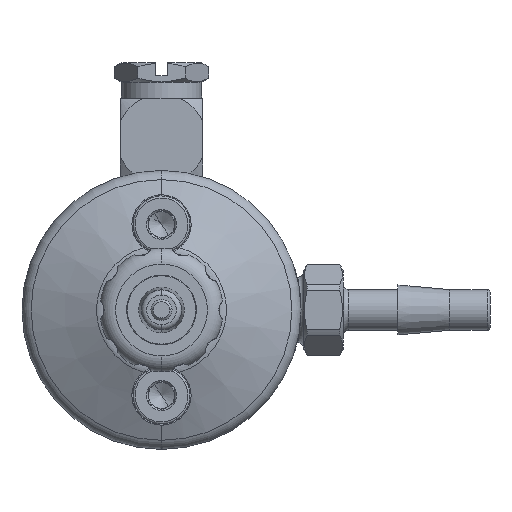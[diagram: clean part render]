
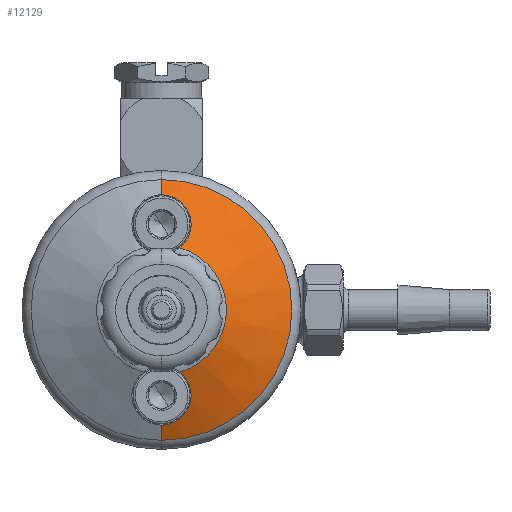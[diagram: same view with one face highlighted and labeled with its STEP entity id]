
A CAD part, front view. The second image highlights one B-rep face of the part: STEP entity #12129.
In plain terms, the highlighted conical face has half-angle 65 degrees and reference radius 5.956 mm.
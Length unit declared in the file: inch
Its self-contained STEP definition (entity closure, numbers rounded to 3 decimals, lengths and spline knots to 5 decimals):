
#1408 = CONICAL_SURFACE ( 'NONE', #7321, 0.2345, 1.134 ) ;
#1736 = CARTESIAN_POINT ( 'NONE',  ( 0.10389, 0.6522, -0.36856 ) ) ;
#1899 = CARTESIAN_POINT ( 'NONE',  ( 0.09597, 0.65821, 0.38399 ) ) ;
#2595 = CARTESIAN_POINT ( 'NONE',  ( 0.08602, 0.66369, 0.39845 ) ) ;
#3035 = CARTESIAN_POINT ( 'NONE',  ( 0., 0.58862, 0. ) ) ;
#3083 = VERTEX_POINT ( 'NONE', #28700 ) ;
#3227 = CARTESIAN_POINT ( 'NONE',  ( 0., 0.70464, 0. ) ) ;
#3614 = CARTESIAN_POINT ( 'NONE',  ( 0.11258, 0.63864, -0.33546 ) ) ;
#4517 = CARTESIAN_POINT ( 'NONE',  ( 0.06339, 0.67084, -0.41813 ) ) ;
#4620 = EDGE_LOOP ( 'NONE', ( #18889, #16796, #43693, #12445, #31719, #33077 ) ) ;
#4926 = LINE ( 'NONE', #18987, #35502 ) ;
#5201 = CARTESIAN_POINT ( 'NONE',  ( 0., 0.67766, -0.4375 ) ) ;
#5380 = CARTESIAN_POINT ( 'NONE',  ( 0.06339, 0.67084, 0.41814 ) ) ;
#5435 = CARTESIAN_POINT ( 'NONE',  ( 0.05834, 0.672, -0.42138 ) ) ;
#5651 = DIRECTION ( 'NONE',  ( 0., 0.423, -0.906 ) ) ;
#6001 = DIRECTION ( 'NONE',  ( 0., 0., -1. ) ) ;
#6295 = CARTESIAN_POINT ( 'NONE',  ( 0.02438, 0.67679, 0.435 ) ) ;
#6860 = CARTESIAN_POINT ( 'NONE',  ( 0.07819, 0.59309, -0.24392 ) ) ;
#7081 = CARTESIAN_POINT ( 'NONE',  ( 0.11066, 0.62358, -0.30189 ) ) ;
#7321 = AXIS2_PLACEMENT_3D ( 'NONE', #38496, #45637, #35950 ) ;
#8453 = CARTESIAN_POINT ( 'NONE',  ( 0.0245, 0.67678, -0.43497 ) ) ;
#8839 = CARTESIAN_POINT ( 'NONE',  ( 0.00613, 0.67766, 0.4375 ) ) ;
#9282 = CARTESIAN_POINT ( 'NONE',  ( 0.06952, 0.58862, 0.23655 ) ) ;
#9517 = CARTESIAN_POINT ( 'NONE',  ( 0.05825, 0.67202, 0.42144 ) ) ;
#10032 = EDGE_CURVE ( 'NONE', #24961, #40711, #40478, .T. ) ;
#10373 = FACE_OUTER_BOUND ( 'NONE', #4620, .T. ) ;
#10827 = B_SPLINE_CURVE_WITH_KNOTS ( 'NONE', 3,
 ( #43876, #8839, #26351, #6295, #41085, #22882, #36956, #9517, #5380, #19440, #2595, #1899, #33517, #30031, #16652, #15963, #30718, #44096, #44554, #40635, #12523, #44774, #27263, #26580, #33965, #37643, #23119, #9282 ),
 .UNSPECIFIED., .F., .F.,
 ( 4, 2, 2, 2, 2, 2, 2, 2, 2, 2, 2, 2, 2, 4 ),
 ( 0.00788, 0.00835, 0.00881, 0.00928, 0.00974, 0.01067, 0.01114, 0.0116, 0.01207, 0.01253, 0.01346, 0.0144, 0.01486, 0.01533 ),
 .UNSPECIFIED. ) ;
#12129 = ADVANCED_FACE ( 'NONE', ( #10373 ), #1408, .T. ) ;
#12445 = ORIENTED_EDGE ( 'NONE', *, *, #38557, .F. ) ;
#12523 = CARTESIAN_POINT ( 'NONE',  ( 0.11062, 0.62349, 0.30168 ) ) ;
#12915 = VERTEX_POINT ( 'NONE', #34579 ) ;
#13758 = CARTESIAN_POINT ( 'NONE',  ( 0.07402, 0.59079, -0.24008 ) ) ;
#13984 = CARTESIAN_POINT ( 'NONE',  ( 0.08594, 0.59788, -0.25218 ) ) ;
#14256 = B_SPLINE_CURVE_WITH_KNOTS ( 'NONE', 3,
 ( #18344, #13758, #6860, #13984, #42562, #35199, #28048, #24600, #38660, #7081, #21122, #3614, #43468, #33348, #1736, #22937, #22709, #26407, #29647, #4517, #5435, #40028, #39784, #18580, #8453, #36781, #43709, #5201 ),
 .UNSPECIFIED., .F., .F.,
 ( 4, 2, 2, 2, 2, 2, 2, 2, 2, 2, 2, 2, 2, 4 ),
 ( 0.00043, 0.00089, 0.00136, 0.00182, 0.00229, 0.00322, 0.00415, 0.00462, 0.00509, 0.00602, 0.00648, 0.00695, 0.00741, 0.00788 ),
 .UNSPECIFIED. ) ;
#15963 = CARTESIAN_POINT ( 'NONE',  ( 0.10934, 0.64557, 0.3521 ) ) ;
#16652 = CARTESIAN_POINT ( 'NONE',  ( 0.10603, 0.65001, 0.36304 ) ) ;
#16796 = ORIENTED_EDGE ( 'NONE', *, *, #28538, .T. ) ;
#16804 = CIRCLE ( 'NONE', #18208, 0.49536 ) ;
#17086 = DIRECTION ( 'NONE',  ( 0., 1., 0. ) ) ;
#18208 = AXIS2_PLACEMENT_3D ( 'NONE', #3227, #34356, #6001 ) ;
#18253 = VERTEX_POINT ( 'NONE', #29983 ) ;
#18344 = CARTESIAN_POINT ( 'NONE',  ( 0.06952, 0.58862, -0.23655 ) ) ;
#18580 = CARTESIAN_POINT ( 'NONE',  ( 0.03041, 0.67626, -0.43348 ) ) ;
#18889 = ORIENTED_EDGE ( 'NONE', *, *, #36161, .T. ) ;
#18987 = CARTESIAN_POINT ( 'NONE',  ( 0., 0.583, 0.2345 ) ) ;
#19440 = CARTESIAN_POINT ( 'NONE',  ( 0.07768, 0.66692, 0.40725 ) ) ;
#19786 = EDGE_CURVE ( 'NONE', #18253, #29331, #16804, .T. ) ;
#21001 = DIRECTION ( 'NONE',  ( 0., 0., -1. ) ) ;
#21122 = CARTESIAN_POINT ( 'NONE',  ( 0.11241, 0.62866, -0.31286 ) ) ;
#22081 = AXIS2_PLACEMENT_3D ( 'NONE', #3035, #17086, #21001 ) ;
#22709 = CARTESIAN_POINT ( 'NONE',  ( 0.09594, 0.65823, -0.38404 ) ) ;
#22882 = CARTESIAN_POINT ( 'NONE',  ( 0.04193, 0.6749, 0.42957 ) ) ;
#22937 = CARTESIAN_POINT ( 'NONE',  ( 0.09885, 0.6563, -0.37903 ) ) ;
#23119 = CARTESIAN_POINT ( 'NONE',  ( 0.074, 0.59079, 0.24007 ) ) ;
#23166 = LINE ( 'NONE', #37236, #26606 ) ;
#23550 = CARTESIAN_POINT ( 'NONE',  ( 0.06952, 0.58862, 0.23655 ) ) ;
#24600 = CARTESIAN_POINT ( 'NONE',  ( 0.10355, 0.61315, -0.28067 ) ) ;
#24961 = VERTEX_POINT ( 'NONE', #23550 ) ;
#26351 = CARTESIAN_POINT ( 'NONE',  ( 0.01223, 0.67749, 0.437 ) ) ;
#26407 = CARTESIAN_POINT ( 'NONE',  ( 0.08601, 0.66368, -0.39844 ) ) ;
#26580 = CARTESIAN_POINT ( 'NONE',  ( 0.08943, 0.60032, 0.25652 ) ) ;
#26606 = VECTOR ( 'NONE', #5651, 39.37008 ) ;
#27263 = CARTESIAN_POINT ( 'NONE',  ( 0.099, 0.60792, 0.2704 ) ) ;
#28048 = CARTESIAN_POINT ( 'NONE',  ( 0.09867, 0.60799, -0.27066 ) ) ;
#28538 = EDGE_CURVE ( 'NONE', #3083, #18253, #23166, .T. ) ;
#28700 = CARTESIAN_POINT ( 'NONE',  ( 0., 0.67766, -0.4375 ) ) ;
#29331 = VERTEX_POINT ( 'NONE', #44948 ) ;
#29647 = CARTESIAN_POINT ( 'NONE',  ( 0.07765, 0.66693, -0.40728 ) ) ;
#29983 = CARTESIAN_POINT ( 'NONE',  ( 0., 0.70464, -0.49536 ) ) ;
#30031 = CARTESIAN_POINT ( 'NONE',  ( 0.10392, 0.65217, 0.36847 ) ) ;
#30718 = CARTESIAN_POINT ( 'NONE',  ( 0.11056, 0.64327, 0.34656 ) ) ;
#31719 = ORIENTED_EDGE ( 'NONE', *, *, #37281, .T. ) ;
#33077 = ORIENTED_EDGE ( 'NONE', *, *, #10032, .T. ) ;
#33348 = CARTESIAN_POINT ( 'NONE',  ( 0.106, 0.65004, -0.36312 ) ) ;
#33517 = CARTESIAN_POINT ( 'NONE',  ( 0.09889, 0.65627, 0.37896 ) ) ;
#33965 = CARTESIAN_POINT ( 'NONE',  ( 0.08586, 0.59783, 0.25209 ) ) ;
#34356 = DIRECTION ( 'NONE',  ( 0., -1., 0. ) ) ;
#34579 = CARTESIAN_POINT ( 'NONE',  ( 0., 0.67766, 0.4375 ) ) ;
#35199 = CARTESIAN_POINT ( 'NONE',  ( 0.09586, 0.60543, -0.26586 ) ) ;
#35502 = VECTOR ( 'NONE', #40199, 39.37008 ) ;
#35950 = DIRECTION ( 'NONE',  ( 0., 0., 1. ) ) ;
#36161 = EDGE_CURVE ( 'NONE', #40711, #3083, #14256, .T. ) ;
#36781 = CARTESIAN_POINT ( 'NONE',  ( 0.01235, 0.67748, -0.43699 ) ) ;
#36956 = CARTESIAN_POINT ( 'NONE',  ( 0.0475, 0.67405, 0.42716 ) ) ;
#37236 = CARTESIAN_POINT ( 'NONE',  ( 0., 0.583, -0.2345 ) ) ;
#37281 = EDGE_CURVE ( 'NONE', #12915, #24961, #10827, .T. ) ;
#37643 = CARTESIAN_POINT ( 'NONE',  ( 0.07816, 0.59307, 0.24389 ) ) ;
#38496 = CARTESIAN_POINT ( 'NONE',  ( 0., 0.583, 0. ) ) ;
#38557 = EDGE_CURVE ( 'NONE', #12915, #29331, #4926, .T. ) ;
#38660 = CARTESIAN_POINT ( 'NONE',  ( 0.10564, 0.61578, -0.2859 ) ) ;
#39784 = CARTESIAN_POINT ( 'NONE',  ( 0.04194, 0.6749, -0.42957 ) ) ;
#40028 = CARTESIAN_POINT ( 'NONE',  ( 0.0476, 0.67403, -0.42712 ) ) ;
#40199 = DIRECTION ( 'NONE',  ( 0., 0.423, 0.906 ) ) ;
#40478 = CIRCLE ( 'NONE', #22081, 0.24656 ) ;
#40635 = CARTESIAN_POINT ( 'NONE',  ( 0.1124, 0.62862, 0.31277 ) ) ;
#40711 = VERTEX_POINT ( 'NONE', #43834 ) ;
#41085 = CARTESIAN_POINT ( 'NONE',  ( 0.0304, 0.67627, 0.43349 ) ) ;
#42562 = CARTESIAN_POINT ( 'NONE',  ( 0.08952, 0.60039, -0.25663 ) ) ;
#43468 = CARTESIAN_POINT ( 'NONE',  ( 0.11097, 0.64338, -0.34672 ) ) ;
#43693 = ORIENTED_EDGE ( 'NONE', *, *, #19786, .T. ) ;
#43709 = CARTESIAN_POINT ( 'NONE',  ( 0.00613, 0.67766, -0.4375 ) ) ;
#43834 = CARTESIAN_POINT ( 'NONE',  ( 0.06952, 0.58862, -0.23655 ) ) ;
#43876 = CARTESIAN_POINT ( 'NONE',  ( 0., 0.67766, 0.4375 ) ) ;
#44096 = CARTESIAN_POINT ( 'NONE',  ( 0.11217, 0.63853, 0.33533 ) ) ;
#44554 = CARTESIAN_POINT ( 'NONE',  ( 0.11255, 0.63606, 0.32962 ) ) ;
#44774 = CARTESIAN_POINT ( 'NONE',  ( 0.10387, 0.61307, 0.28036 ) ) ;
#44948 = CARTESIAN_POINT ( 'NONE',  ( 0., 0.70464, 0.49536 ) ) ;
#45637 = DIRECTION ( 'NONE',  ( 0., 1., 0. ) ) ;
